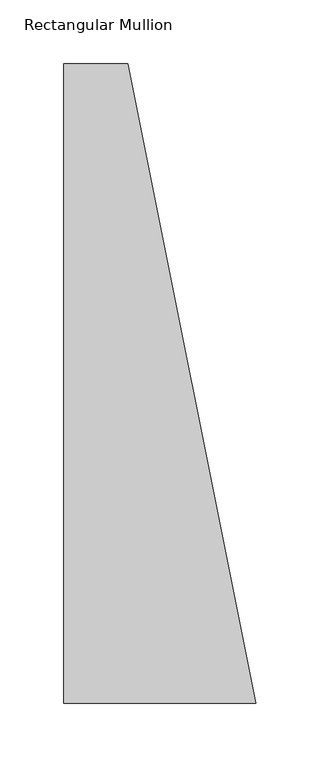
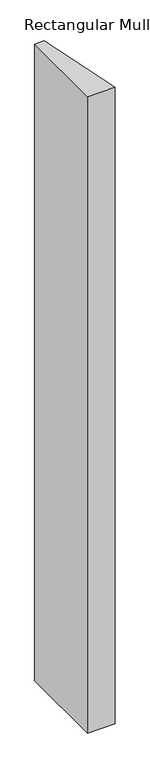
"""IFC4 building model written with IfcOpenShell, lengths in millimetres: member geometry, Rectangular Mullion : 500(350+150)x150x50mm."""

from ifc_helpers import new_model, si_unit, frame, origin, place, context, project, spatial, polyline, outline, extrude, source, transform, mapped, element, save


def rectangular_mullion_3f78ae3a(model_context):
    return source(origin(), model_context, "Body", "SweptSolid", [
        extrude(outline(polyline([(-150.0, 150.0), (-100.0, 150.0), (0.0, -350.0), (-150.0, -350.0), (-150.0, 150.0)])), frame((0.0, 0.0, -3675.0), z_axis=(0.0, 0.0, 1.0), x_axis=(1.0, 0.0, 0.0)), (0.0, 0.0, 1.0), 3675.0),
    ])


if __name__ == "__main__":
    model = new_model("IFC4")
    model_context = context("Model", 3, world=origin())
    ifc_project = project(units=[si_unit("LENGTHUNIT", "METRE", prefix="MILLI")], contexts=[model_context])
    site = spatial("IfcSite", under=ifc_project)
    building = spatial("IfcBuilding", under=site)
    placement = place(None, origin())
    rectangular_mullion_shape = rectangular_mullion_3f78ae3a(model_context)
    element("IfcMember", 1, ObjectType="Rectangular Mullion : 500(350+150)x150x50mm", at=placement, inside=building, context=model_context, shape_type="MappedRepresentation", body=[
        mapped(rectangular_mullion_shape, transform((0.0, 0.0, 0.0), x_axis=(1.0, 0.0, 0.0), y_axis=(0.0, 1.0, 0.0), z_axis=(0.0, 0.0, 1.0))),
    ])
    save(model, "model.ifc")
